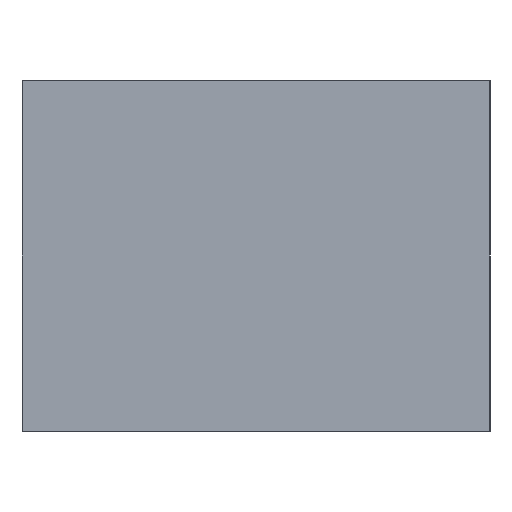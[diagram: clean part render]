
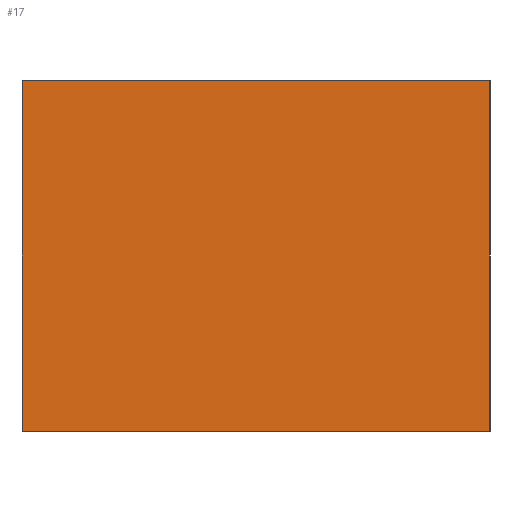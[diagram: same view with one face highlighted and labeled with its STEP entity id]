
A CAD part, left-side view. The second image highlights one B-rep face of the part: STEP entity #17.
In plain terms, the highlighted planar face has unit normal (-1, 0, 0).
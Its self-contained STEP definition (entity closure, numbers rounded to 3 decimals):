
#17 = ADVANCED_FACE('',(#18),#52,.F.);
#18 = FACE_BOUND('',#19,.F.);
#19 = EDGE_LOOP('',(#20,#30,#38,#46));
#20 = ORIENTED_EDGE('',*,*,#21,.F.);
#21 = EDGE_CURVE('',#22,#24,#26,.T.);
#22 = VERTEX_POINT('',#23);
#23 = CARTESIAN_POINT('',(0.,0.,0.));
#24 = VERTEX_POINT('',#25);
#25 = CARTESIAN_POINT('',(0.,0.,15.));
#26 = LINE('',#27,#28);
#27 = CARTESIAN_POINT('',(0.,0.,0.));
#28 = VECTOR('',#29,1.);
#29 = DIRECTION('',(0.,0.,1.));
#30 = ORIENTED_EDGE('',*,*,#31,.T.);
#31 = EDGE_CURVE('',#22,#32,#34,.T.);
#32 = VERTEX_POINT('',#33);
#33 = CARTESIAN_POINT('',(0.,20.,0.));
#34 = LINE('',#35,#36);
#35 = CARTESIAN_POINT('',(0.,0.,0.));
#36 = VECTOR('',#37,1.);
#37 = DIRECTION('',(0.,1.,0.));
#38 = ORIENTED_EDGE('',*,*,#39,.T.);
#39 = EDGE_CURVE('',#32,#40,#42,.T.);
#40 = VERTEX_POINT('',#41);
#41 = CARTESIAN_POINT('',(0.,20.,15.));
#42 = LINE('',#43,#44);
#43 = CARTESIAN_POINT('',(0.,20.,0.));
#44 = VECTOR('',#45,1.);
#45 = DIRECTION('',(0.,0.,1.));
#46 = ORIENTED_EDGE('',*,*,#47,.F.);
#47 = EDGE_CURVE('',#24,#40,#48,.T.);
#48 = LINE('',#49,#50);
#49 = CARTESIAN_POINT('',(0.,0.,15.));
#50 = VECTOR('',#51,1.);
#51 = DIRECTION('',(0.,1.,0.));
#52 = PLANE('',#53);
#53 = AXIS2_PLACEMENT_3D('',#54,#55,#56);
#54 = CARTESIAN_POINT('',(0.,0.,0.));
#55 = DIRECTION('',(1.,0.,0.));
#56 = DIRECTION('',(0.,0.,1.));
